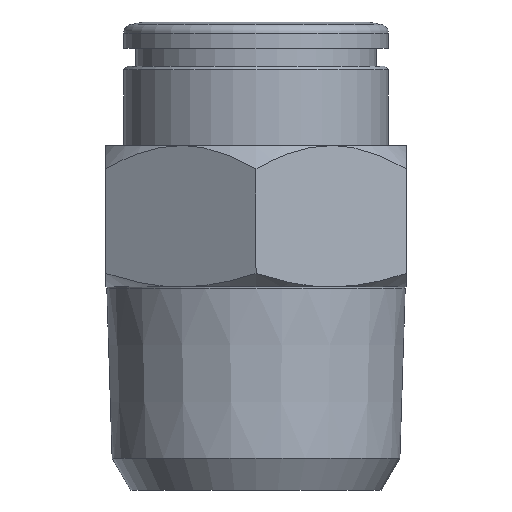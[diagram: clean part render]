
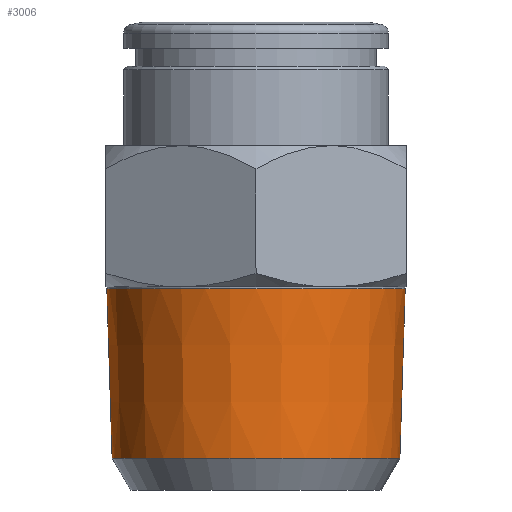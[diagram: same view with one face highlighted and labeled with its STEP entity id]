
A CAD part, left-side view. The second image highlights one B-rep face of the part: STEP entity #3006.
In plain terms, the highlighted conical face has half-angle 1.79 degrees and reference radius 8.447 mm.
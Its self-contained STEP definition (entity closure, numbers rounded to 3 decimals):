
#1487=ORIENTED_EDGE('',*,*,#1875,.F.);
#1488=ORIENTED_EDGE('',*,*,#1876,.F.);
#1735=CIRCLE('',#2826,8.147);
#1736=CIRCLE('',#2827,8.447);
#1787=VERTEX_POINT('',#2544);
#1788=VERTEX_POINT('',#2546);
#1875=EDGE_CURVE('',#1787,#1787,#1735,.T.);
#1876=EDGE_CURVE('',#1788,#1788,#1736,.T.);
#1999=EDGE_LOOP('',(#1487));
#2000=EDGE_LOOP('',(#1488));
#2095=FACE_BOUND('',#1999,.T.);
#2096=FACE_BOUND('',#2000,.T.);
#2191=DIRECTION('',(0.,1.,0.));
#2192=DIRECTION('',(0.,0.,1.));
#2193=DIRECTION('',(0.,-1.,0.));
#2194=DIRECTION('',(0.,0.,8.147));
#2195=DIRECTION('',(0.,1.,0.));
#2196=DIRECTION('',(0.,0.,-8.447));
#2543=CARTESIAN_POINT('',(23.439,23.277,0.));
#2544=CARTESIAN_POINT('',(23.439,13.677,8.147));
#2545=CARTESIAN_POINT('',(23.439,13.677,0.));
#2546=CARTESIAN_POINT('',(23.439,23.277,8.447));
#2547=CARTESIAN_POINT('',(23.439,23.277,0.));
#2825=AXIS2_PLACEMENT_3D('',#2543,#2191,#2192);
#2826=AXIS2_PLACEMENT_3D('',#2545,#2193,#2194);
#2827=AXIS2_PLACEMENT_3D('',#2547,#2195,#2196);
#2983=CONICAL_SURFACE('',#2825,8.447,1.79);
#3006=ADVANCED_FACE('',(#2095,#2096),#2983,.T.);
